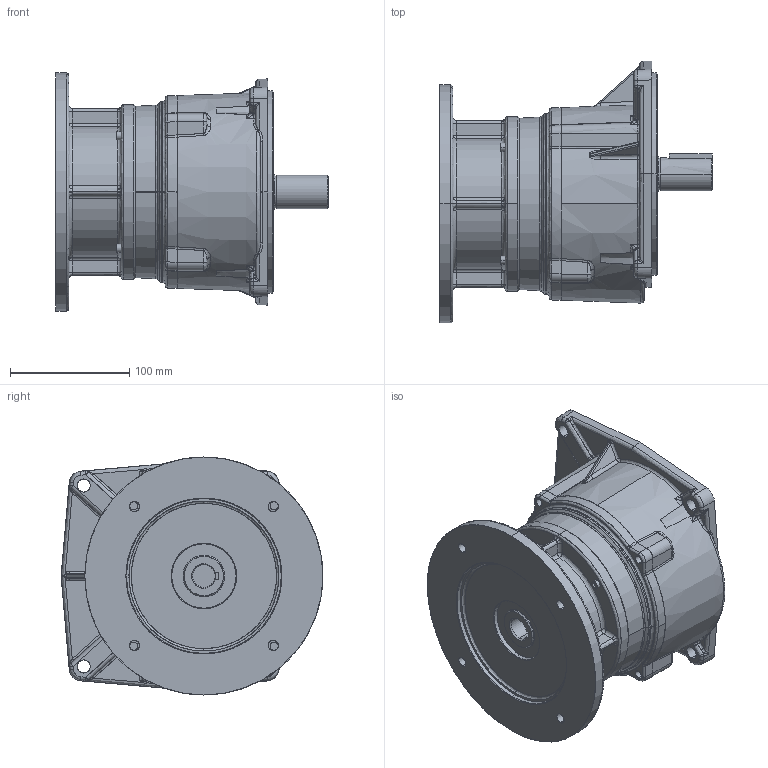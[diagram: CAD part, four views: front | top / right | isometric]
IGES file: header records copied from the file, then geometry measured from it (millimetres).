
Start section: SolidWorks IGES file using analytic representation for surfaces
Bounding box: 229 x 220 x 200 mm (x, y, z)
Surface area: 308471.6 mm2 (no closed solid volume)
Topology: 0 solids, 0 shells, 747 faces, 9369 edges, 9338 vertices
Faces by surface type: bspline 440, revolution 307
